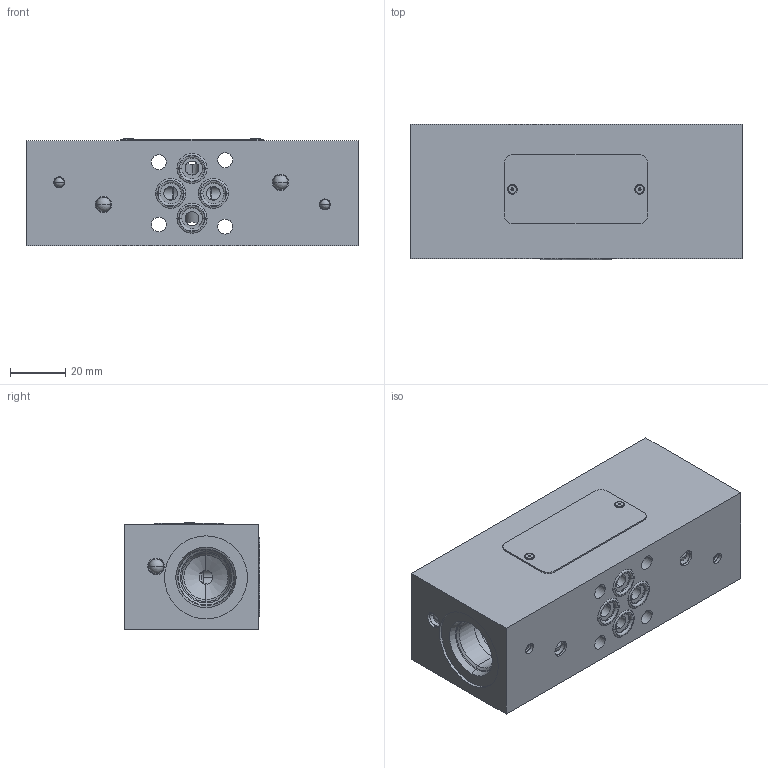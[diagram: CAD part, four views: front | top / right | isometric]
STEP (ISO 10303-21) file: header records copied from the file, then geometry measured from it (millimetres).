
FILE_DESCRIPTION((''),'2;1');
FILE_NAME('1000079218_ASM','2023-10-13T',('l.soukupova'),(''),'PRO/ENGINEER BY PARAMETRIC TECHNOLOGY CORPORATION, 2015440','PRO/ENGINEER BY PARAMETRIC TECHNOLOGY CORPORATION, 2015440','');
FILE_SCHEMA(('AUTOMOTIVE_DESIGN { 1 0 10303 214 1 1 1 1 }'));
Length unit declared in the file: millimetre
Products named in the file (7): 30846200; RD_LABEL_25X52_159703; AF_1932_16485; ORIA00750_292673; MB850_040E; MB850_060E; 1000079218_ASM
Assembly tree (14 placements, depth 2):
  1000079218_ASM
    30846200
    RD_LABEL_25X52_159703
    AF_1932_16485  x2
    ORIA00750_292673  x4
    MB850_040E  x2
    MB850_060E  x4
Bounding box: 120 x 48.9 x 39 mm (x, y, z)
Volume: 186872.2 mm3; surface area: 44442.9 mm2
Topology: 14 solids, 16 shells, 466 faces, 1101 edges, 725 vertices
Faces by surface type: cone 200, cylinder 172, plane 46, torus 36, sphere 12
Entity records: 13985 total; most frequent: CARTESIAN_POINT 3549, DIRECTION 1541, ORIENTED_EDGE 1256, PRESENTATION_STYLE_ASSIGNMENT 809, STYLED_ITEM 729, CURVE_STYLE 721, EDGE_CURVE 632, AXIS2_PLACEMENT_3D 623
